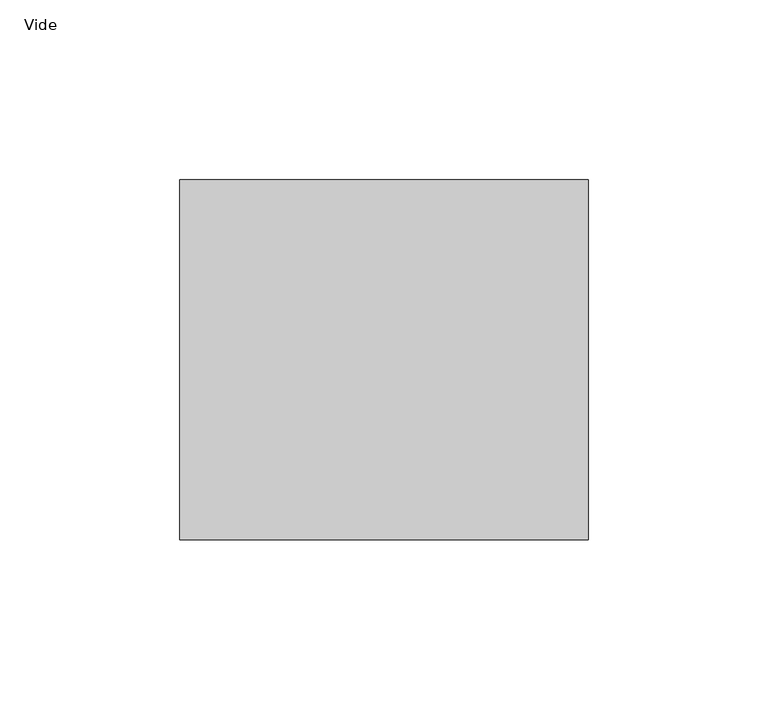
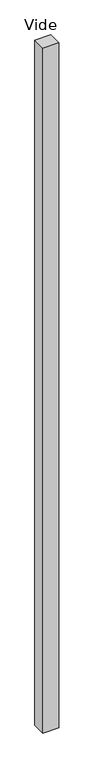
"""IFC4 building model written with IfcOpenShell, lengths in millimetres: plate geometry, Panneau système vide : Vide."""

from ifc_helpers import new_model, si_unit, origin, origin_with_axes, place, context, project, spatial, polyline, outline, extrude, source, transform, mapped, element, save


def vide_11869157(model_context):
    return source(origin(), model_context, "Body", "SweptSolid", [
        extrude(outline(polyline([(56.7160343, 50.0), (-56.7160343, 50.0), (-56.7160343, 150.0), (56.7160343, 150.0), (56.7160343, 50.0)])), origin_with_axes(), (0.0, 0.0, 1.0), 5176.3809021),
    ])


if __name__ == "__main__":
    model = new_model("IFC4")
    model_context = context("Model", 3, world=origin())
    ifc_project = project(units=[si_unit("LENGTHUNIT", "METRE", prefix="MILLI")], contexts=[model_context])
    site = spatial("IfcSite", under=ifc_project)
    building = spatial("IfcBuilding", under=site)
    placement = place(None, origin())
    vide_shape = vide_11869157(model_context)
    element("IfcPlate", 1, ObjectType="Panneau système vide : Vide", at=placement, inside=building, context=model_context, shape_type="MappedRepresentation", body=[
        mapped(vide_shape, transform((0.0, 0.0, 0.0), x_axis=(1.0, 0.0, 0.0), y_axis=(0.0, 1.0, 0.0), z_axis=(0.0, 0.0, 1.0))),
    ])
    save(model, "model.ifc")
